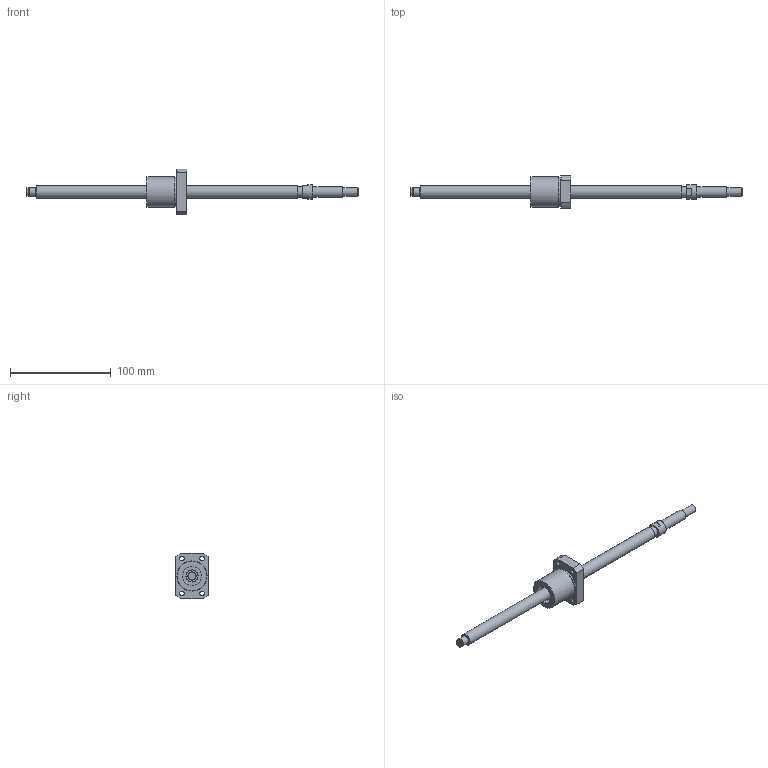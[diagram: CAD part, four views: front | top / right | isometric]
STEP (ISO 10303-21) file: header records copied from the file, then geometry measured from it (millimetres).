
FILE_DESCRIPTION(/* description */ ('STEP AP203'),/* implementation_level */ '2;1');
FILE_NAME(/* name */ 'BNK1205-2.5RRG0+330LC5Y(1500)',/* time_stamp */ '2024-07-09T09:09:26+02:00',/* author */ ('License CC BY-ND 4.0'),/* organization */ ('CADENAS'),/* preprocessor_version */ 'ST-DEVELOPER v19.3',/* originating_system */ 'PARTsolutions',/* authorisation */ ' ');
FILE_SCHEMA (('CONFIG_CONTROL_DESIGN'));
Length unit declared in the file: millimetre
Products named in the file (3): BNK1205-2.5RRG0+330LC5Y(1500); BNK 1205-2.5RRG0+330LC5Y Shaft; BNK 1205-2.5RRG0+330LC5YRR0 Nut
Assembly tree (2 placements, depth 2):
  BNK1205-2.5RRG0+330LC5Y(1500)
    BNK 1205-2.5RRG0+330LC5Y Shaft
    BNK 1205-2.5RRG0+330LC5YRR0 Nut
Bounding box: 330 x 32 x 45 mm (x, y, z)
Volume: 62347.8 mm3; surface area: 21735.5 mm2
Topology: 2 solids, 2 shells, 76 faces, 159 edges, 102 vertices
Faces by surface type: plane 29, cylinder 29, cone 16, torus 2
Full cylindrical faces by diameter (mm): 3 x3, 4.5 x4, 4.917 x1, 7.6 x1, 8 x7, 10 x2, 12 x2, 14 x1, 19 x2, 29.4 x1, 30 x1
Entity records: 1976 total; most frequent: CARTESIAN_POINT 386, DIRECTION 332, ORIENTED_EDGE 236, AXIS2_PLACEMENT_3D 154, FACE_BOUND 141, EDGE_LOOP 140, EDGE_CURVE 118, VERTEX_POINT 99
